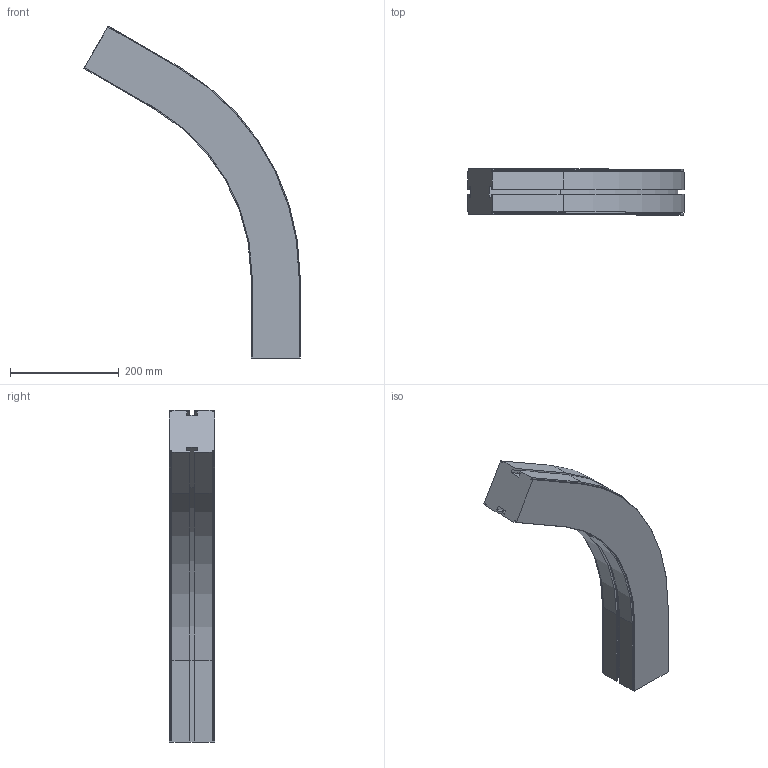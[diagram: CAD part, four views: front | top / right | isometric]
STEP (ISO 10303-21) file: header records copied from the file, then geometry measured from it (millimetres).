
FILE_DESCRIPTION (( 'STEP AP214' ), '1' );
FILE_NAME ('927811 CS090SL Horizontale bochtsectie R400 60°.STEP', '2014-03-20T14:52:38', ( 'Beheerder' ), ( '' ), 'SwSTEP 2.0', 'SolidWorks 2012', '' );
FILE_SCHEMA (( 'AUTOMOTIVE_DESIGN' ));
Length unit declared in the file: millimetre
Products named in the file (1): 927811 CS090SL Horizontale bochtsectie R400 60°
Bounding box: 397.4 x 84 x 610.38 mm (x, y, z)
Volume: 5143313.4 mm3; surface area: 340651.4 mm2
Topology: 1 solids, 1 shells, 98 faces, 272 edges, 176 vertices
Faces by surface type: plane 72, cylinder 18, cone 8
Entity records: 3126 total; most frequent: CARTESIAN_POINT 547, ORIENTED_EDGE 544, DIRECTION 514, EDGE_CURVE 272, LINE 228, VECTOR 228, VERTEX_POINT 176, AXIS2_PLACEMENT_3D 143
